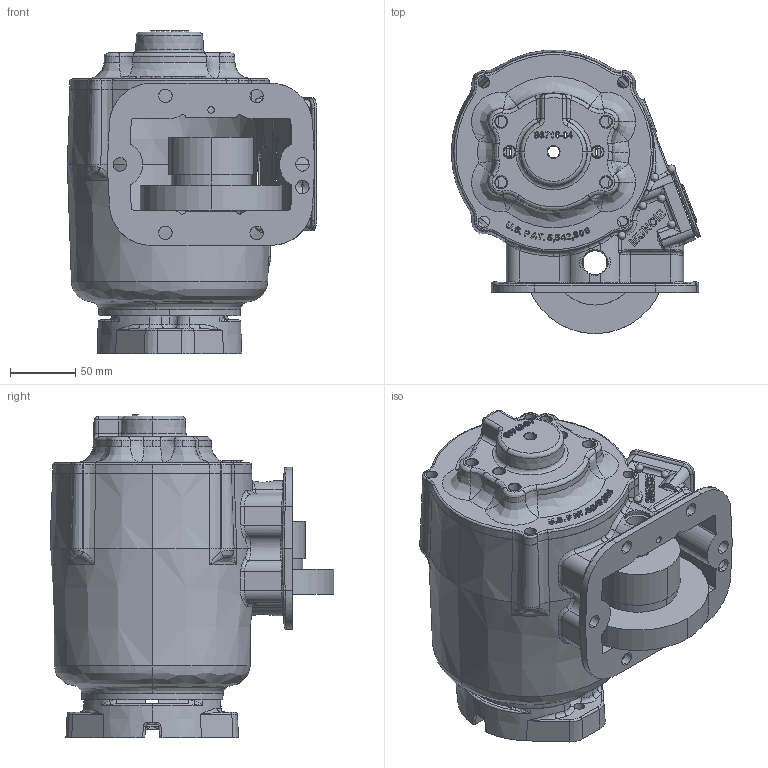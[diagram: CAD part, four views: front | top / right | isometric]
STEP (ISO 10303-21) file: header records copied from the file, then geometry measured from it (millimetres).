
FILE_DESCRIPTION (( 'STEP AP203' ), '1' );
FILE_NAME ('CS6S-XXXXX-X2QX.STEP', '2011-11-01T20:19:52', ( 'User' ), ( 'Muncie Power Products, Inc.' ), 'SwSTEP 2.0', 'SolidWorks 2011', '' );
FILE_SCHEMA (( 'CONFIG_CONTROL_DESIGN' ));
Products named in the file (1): CS6S-XXXXX-X2QX
Bounding box: 190.82 x 216.75 x 247.66 mm (x, y, z)
Surface area: 301624 mm2 (no closed solid volume)
Topology: 0 solids, 19 shells, 1370 faces, 4510 edges, 2964 vertices
Faces by surface type: bspline 711, plane 276, cylinder 251, cone 128, torus 4
Entity records: 111627 total; most frequent: CARTESIAN_POINT 79886, ORIENTED_EDGE 7605, EDGE_CURVE 4414, DIRECTION 3955, VERTEX_POINT 2964, B_SPLINE_CURVE_WITH_KNOTS 2200, LINE 1563, VECTOR 1563
